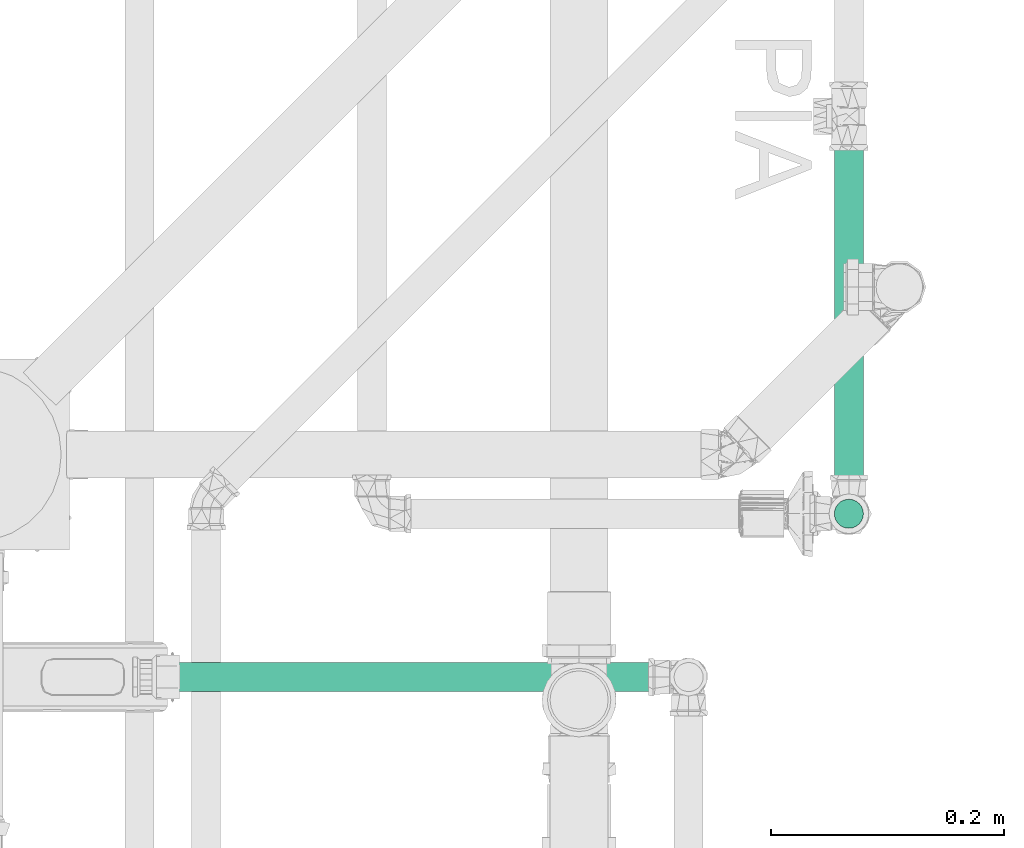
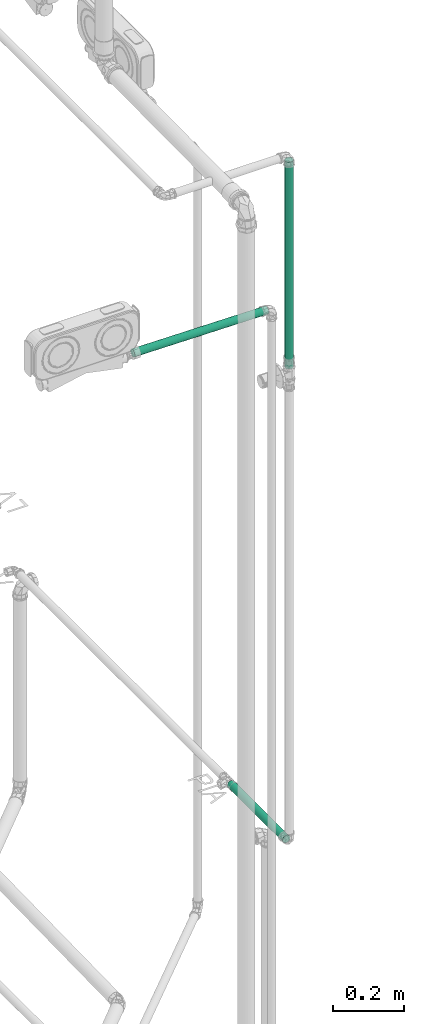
# One storey, part 46 of 589: 3 flow segments.
"""IFC2X3 building model written with IfcOpenShell, lengths in millimetres."""

import ifcopenshell
import ifcopenshell.guid

model = None  # the IFC model being written
_history = None  # IfcOwnerHistory: only IFC2X3 demands one
_inside = {}  # id of a spatial element -> (the spatial element, [elements in it])
_under = {}  # id of a project, library or spatial element -> (it, [spatial elements below it])
_declared = {}  # id of a project -> (the project, [libraries it declares])
_typed = {}  # id of a type object -> (the type object, [elements of that type])
_made_of = {}  # id of a material, layer set ... -> (it, [elements and type objects made of it])


def new_model(schema):
    """Start an empty IFC model of exactly this schema.

    Asked for "IFC4X3", IfcOpenShell would pick the latest addendum, in which some entities
    have other attributes; the version numbers below select the first issue.
    IFC2X3 requires an IfcOwnerHistory on every rooted entity: one is made here for all.
    """
    global model, _history
    if schema == "IFC4X3":
        model = ifcopenshell.file(schema_version=(4, 3, 0, 0))
    else:
        model = ifcopenshell.file(schema=schema)
    _inside.clear()
    _under.clear()
    _declared.clear()
    _typed.clear()
    _made_of.clear()
    _history = None
    if model.schema == "IFC2X3":
        org = make("IfcOrganization", Name="unknown")
        user = make(
            "IfcPersonAndOrganization",
            ThePerson=make("IfcPerson", FamilyName="unknown"),
            TheOrganization=org,
        )
        app = make(
            "IfcApplication",
            ApplicationDeveloper=org,
            Version="unknown",
            ApplicationFullName="unknown",
            ApplicationIdentifier="unknown",
        )
        _history = make(
            "IfcOwnerHistory",
            OwningUser=user,
            OwningApplication=app,
            ChangeAction="ADDED",
            CreationDate=0,
        )
    return model


def make(cls, **values):
    """One entity of the class cls with the attributes given. An attribute that is None is left unset."""
    return model.create_entity(
        cls, **{name: value for name, value in values.items() if value is not None}
    )


def entity(cls, *values):
    """Any entity or typed value of the class cls, its attributes in the order of the schema. None: left unset."""
    e = model.create_entity(cls)
    for i, value in enumerate(values):
        if value is not None:
            e[i] = value
    return e


def rooted(cls, **values):
    """An entity with a GlobalId (a new one), such as an element, a storey or a relation."""
    return make(cls, GlobalId=ifcopenshell.guid.new(), OwnerHistory=_history, **values)


def si_unit(unit_type, name, prefix=None):
    """IfcSIUnit, for example si_unit("LENGTHUNIT", "METRE", prefix="MILLI")."""
    return make("IfcSIUnit", UnitType=unit_type, Prefix=prefix, Name=name)


def converted_unit(unit_type, name, factor, base, dimensions=None, offset=None):
    """IfcConversionBasedUnit, such as the inch: factor (a typed value) times the base unit."""
    return make(
        "IfcConversionBasedUnit"
        if offset is None
        else "IfcConversionBasedUnitWithOffset",
        ConversionOffset=offset,
        Dimensions=None
        if dimensions is None
        else entity("IfcDimensionalExponents", *dimensions),
        UnitType=unit_type,
        Name=name,
        ConversionFactor=make(
            "IfcMeasureWithUnit", ValueComponent=factor, UnitComponent=base
        ),
    )


def derived_unit(unit_type, elements):
    """IfcDerivedUnit: a product of units, each with its exponent."""
    return make(
        "IfcDerivedUnit",
        Elements=[
            make("IfcDerivedUnitElement", Unit=unit, Exponent=power)
            for unit, power in elements
        ],
        UnitType=unit_type,
    )


def assignment(units):
    """IfcUnitAssignment: the units of a project."""
    return None if units is None else make("IfcUnitAssignment", Units=units)


def point(xyz):
    """IfcCartesianPoint."""
    return None if xyz is None else make("IfcCartesianPoint", Coordinates=xyz)


def direction(xyz):
    """IfcDirection."""
    return None if xyz is None else make("IfcDirection", DirectionRatios=xyz)


def frame(location, z_axis=None, x_axis=None):
    """IfcAxis2Placement3D, a coordinate frame: its origin and axes. An axis left out is left unset."""
    return make(
        "IfcAxis2Placement3D",
        Location=point(location),
        Axis=direction(z_axis),
        RefDirection=direction(x_axis),
    )


def frame_2d(location, x_axis=None):
    """IfcAxis2Placement2D, a coordinate frame in the plane: its origin and x axis."""
    return make(
        "IfcAxis2Placement2D", Location=point(location), RefDirection=direction(x_axis)
    )


def origin():
    """The frame at (0, 0, 0) with its axes left unset."""
    return frame((0.0, 0.0, 0.0))


def origin_2d_with_axis():
    """The frame at (0, 0) in the plane with the x axis (1, 0) written out."""
    return frame_2d((0.0, 0.0), x_axis=(1.0, 0.0))


def place(relative_to, where):
    """IfcLocalPlacement: puts the frame where relative to a parent placement (None: the world)."""
    return make(
        "IfcLocalPlacement", PlacementRelTo=relative_to, RelativePlacement=where
    )


def context(
    kind, dimensions, precision=None, world=None, true_north=None, identifier=None
):
    """IfcGeometricRepresentationContext, for example the 3D "Model" context."""
    return make(
        "IfcGeometricRepresentationContext",
        ContextIdentifier=identifier,
        ContextType=kind,
        CoordinateSpaceDimension=dimensions,
        Precision=precision,
        WorldCoordinateSystem=world,
        TrueNorth=true_north,
    )


def subcontext(parent, identifier, kind, view, scale=None):
    """IfcGeometricRepresentationSubContext, for example "Body" below "Model"."""
    return make(
        "IfcGeometricRepresentationSubContext",
        ContextIdentifier=identifier,
        ContextType=kind,
        ParentContext=parent,
        TargetScale=scale,
        TargetView=view,
    )


def project(units=None, contexts=None):
    """IfcProject with its units and contexts."""
    return rooted(
        "IfcProject",
        Name="project",
        RepresentationContexts=contexts,
        UnitsInContext=assignment(units),
    )


def spatial(cls, under=None, at=None, **own):
    """A site, building, storey or space (cls), placed at a placement, below another one or the project."""
    s = rooted(cls, ObjectPlacement=at, **own)
    if under is not None:
        _under.setdefault(under.id(), (under, []))[1].append(s)
    return s


def profile(cls, at=None, kind="AREA", **sizes):
    """A parametric profile (cls). Its sizes go by their IFC names, for example OverallWidth=200.0."""
    return make(cls, ProfileType=kind, Position=at, **sizes)


def circle(**sizes):
    """IfcCircleProfileDef."""
    return profile("IfcCircleProfileDef", **sizes)


def extrude(swept, where, along, depth):
    """IfcExtrudedAreaSolid: the profile swept, set in the frame where, extruded along a direction by depth."""
    return make(
        "IfcExtrudedAreaSolid",
        SweptArea=swept,
        Position=where,
        ExtrudedDirection=direction(along),
        Depth=depth,
    )


def shape(context_of_items, identifier, shape_type, items):
    """IfcShapeRepresentation: the items that make up one representation, for example the "Body"."""
    return make(
        "IfcShapeRepresentation",
        ContextOfItems=context_of_items,
        RepresentationIdentifier=identifier,
        RepresentationType=shape_type,
        Items=items,
    )


def made_of(thing, what):
    """Note that an element or type object is made of a material, layer set ...; save() writes the relation."""
    if what is not None:
        _made_of.setdefault(what.id(), (what, []))[1].append(thing)
    return thing


def type_object(cls, material=None, **own):
    """A type object (cls), such as IfcWallType, which elements share."""
    return made_of(rooted(cls, **own), material)


def element(
    cls,
    number,
    at=None,
    inside=None,
    cuts=None,
    type_object=None,
    material=None,
    context=None,
    identifier="Body",
    shape_type=None,
    held_by="IfcProductDefinitionShape",
    body=None,
    shapes=None,
    **own,
):
    """One element of the class cls, such as IfcWall. Its Tag is "e" and its number.

    at: its placement. inside: the storey or other place that contains it. cuts: it is an
    opening in that element (IfcRelVoidsElement). A single representation is given by context,
    identifier, shape_type and body (its items); several are given by shapes. held_by: the class
    of the entity that holds the representations. save() writes the other relations.
    """
    e = rooted(cls, Tag="e%d" % number, ObjectPlacement=at, **own)
    if body is not None:
        shapes = [shape(context, identifier, shape_type, body)]
    if shapes is not None:
        e.Representation = make(held_by, Representations=shapes)
    if inside is not None:
        _inside.setdefault(inside.id(), (inside, []))[1].append(e)
    if cuts is not None:
        rooted(
            "IfcRelVoidsElement", RelatingBuildingElement=cuts, RelatedOpeningElement=e
        )
    if type_object is not None:
        _typed.setdefault(type_object.id(), (type_object, []))[1].append(e)
    return made_of(e, material)


def aggregate(whole, parts):
    """IfcRelAggregates: a whole, such as a stair, and the parts it consists of."""
    return rooted("IfcRelAggregates", RelatingObject=whole, RelatedObjects=parts)


def save(model, path):
    """Write the relations noted so far, then the file.

    IfcRelAggregates (storeys below a building ...), IfcRelContainedInSpatialStructure (elements
    in a storey), IfcRelDefinesByType, IfcRelAssociatesMaterial and IfcRelDeclares: one each for
    every whole, place, type object, material and project.
    """
    for whole, parts in _under.values():
        aggregate(whole, parts)
    for where, things in _inside.values():
        rooted(
            "IfcRelContainedInSpatialStructure",
            RelatedElements=things,
            RelatingStructure=where,
        )
    for kind, things in _typed.values():
        rooted("IfcRelDefinesByType", RelatedObjects=things, RelatingType=kind)
    for what, things in _made_of.values():
        rooted("IfcRelAssociatesMaterial", RelatedObjects=things, RelatingMaterial=what)
    for by, libraries in _declared.values():
        rooted("IfcRelDeclares", RelatingContext=by, RelatedDefinitions=libraries)
    model.write(path)


model = new_model("IFC2X3")

# Units and contexts
model_context = context("Model", 3, precision=0.01, world=origin(), true_north=direction((6.123031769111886e-17, 1.0)))
body_context = subcontext(model_context, "Body", "Model", "MODEL_VIEW")
ifc_project = project(units=[si_unit("LENGTHUNIT", "METRE", prefix="MILLI"), si_unit("AREAUNIT", "SQUARE_METRE"), si_unit("VOLUMEUNIT", "CUBIC_METRE"), converted_unit("PLANEANGLEUNIT", "DEGREE", entity("IfcRatioMeasure", 0.017453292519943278), si_unit("PLANEANGLEUNIT", "RADIAN"), dimensions=[0, 0, 0, 0, 0, 0, 0]), si_unit("MASSUNIT", "GRAM", prefix="KILO"), derived_unit("MASSDENSITYUNIT", [(si_unit("MASSUNIT", "GRAM", prefix="KILO"), 1), (si_unit("LENGTHUNIT", "METRE"), -3)]), derived_unit("IONCONCENTRATIONUNIT", [(si_unit("MASSUNIT", "GRAM", prefix="KILO"), 1), (si_unit("LENGTHUNIT", "METRE"), -3)]), derived_unit("MOMENTOFINERTIAUNIT", [(si_unit("LENGTHUNIT", "METRE"), 4)]), si_unit("TIMEUNIT", "SECOND"), si_unit("FREQUENCYUNIT", "HERTZ"), si_unit("THERMODYNAMICTEMPERATUREUNIT", "DEGREE_CELSIUS"), derived_unit("THERMALTRANSMITTANCEUNIT", [(si_unit("MASSUNIT", "GRAM", prefix="KILO"), 1), (si_unit("THERMODYNAMICTEMPERATUREUNIT", "KELVIN"), -1), (si_unit("TIMEUNIT", "SECOND"), -3)]), derived_unit("THERMALCONDUCTANCEUNIT", [(si_unit("MASSUNIT", "GRAM", prefix="KILO"), 1), (si_unit("THERMODYNAMICTEMPERATUREUNIT", "KELVIN"), -1), (si_unit("TIMEUNIT", "SECOND"), -3), (si_unit("LENGTHUNIT", "METRE"), 1)]), derived_unit("VOLUMETRICFLOWRATEUNIT", [(si_unit("LENGTHUNIT", "METRE"), 3), (si_unit("TIMEUNIT", "SECOND"), -1)]), derived_unit("MASSFLOWRATEUNIT", [(si_unit("MASSUNIT", "GRAM", prefix="KILO"), 1), (si_unit("TIMEUNIT", "SECOND"), -1)]), derived_unit("ROTATIONALFREQUENCYUNIT", [(si_unit("TIMEUNIT", "SECOND"), -1)]), si_unit("ELECTRICCURRENTUNIT", "AMPERE"), si_unit("ELECTRICVOLTAGEUNIT", "VOLT"), si_unit("POWERUNIT", "WATT"), si_unit("FORCEUNIT", "NEWTON", prefix="KILO"), si_unit("ILLUMINANCEUNIT", "LUX"), si_unit("LUMINOUSFLUXUNIT", "LUMEN"), si_unit("LUMINOUSINTENSITYUNIT", "CANDELA"), derived_unit("USERDEFINED", [(si_unit("MASSUNIT", "GRAM", prefix="KILO"), -1), (si_unit("LENGTHUNIT", "METRE"), -2), (si_unit("TIMEUNIT", "SECOND"), 3), (si_unit("LUMINOUSFLUXUNIT", "LUMEN"), 1)]), derived_unit("USERDEFINED", [(si_unit("MASSUNIT", "GRAM", prefix="KILO"), 1), (si_unit("TIMEUNIT", "SECOND"), -3), (si_unit("LENGTHUNIT", "METRE"), 3), (si_unit("ELECTRICCURRENTUNIT", "AMPERE"), -2)]), derived_unit("SOUNDPOWERUNIT", [(si_unit("MASSUNIT", "GRAM", prefix="KILO"), 1), (si_unit("TIMEUNIT", "SECOND"), -3), (si_unit("LENGTHUNIT", "METRE"), 2)]), derived_unit("SOUNDPRESSUREUNIT", [(si_unit("MASSUNIT", "GRAM", prefix="KILO"), 1), (si_unit("LENGTHUNIT", "METRE"), -1), (si_unit("TIMEUNIT", "SECOND"), -2)]), derived_unit("LINEARVELOCITYUNIT", [(si_unit("LENGTHUNIT", "METRE"), 1), (si_unit("TIMEUNIT", "SECOND"), -1)]), si_unit("PRESSUREUNIT", "PASCAL"), derived_unit("USERDEFINED", [(si_unit("MASSUNIT", "GRAM", prefix="KILO"), 1), (si_unit("LENGTHUNIT", "METRE"), -2), (si_unit("TIMEUNIT", "SECOND"), -2)]), derived_unit("LINEARFORCEUNIT", [(si_unit("MASSUNIT", "GRAM", prefix="KILO"), 1), (si_unit("TIMEUNIT", "SECOND"), -2)]), derived_unit("PLANARFORCEUNIT", [(si_unit("MASSUNIT", "GRAM", prefix="KILO"), 1), (si_unit("LENGTHUNIT", "METRE"), -1), (si_unit("TIMEUNIT", "SECOND"), -2)]), derived_unit("SPECIFICHEATCAPACITYUNIT", [(si_unit("THERMODYNAMICTEMPERATUREUNIT", "KELVIN"), -1), (si_unit("LENGTHUNIT", "METRE"), 2), (si_unit("TIMEUNIT", "SECOND"), -2)]), derived_unit("HEATINGVALUEUNIT", [(si_unit("LENGTHUNIT", "METRE"), 2), (si_unit("TIMEUNIT", "SECOND"), -2)]), derived_unit("VAPORPERMEABILITYUNIT", [(si_unit("LENGTHUNIT", "METRE"), -1), (si_unit("TIMEUNIT", "SECOND"), 1)]), derived_unit("DYNAMICVISCOSITYUNIT", [(si_unit("MASSUNIT", "GRAM", prefix="KILO"), 1), (si_unit("TIMEUNIT", "SECOND"), -1), (si_unit("LENGTHUNIT", "METRE"), -1)]), derived_unit("THERMALEXPANSIONCOEFFICIENTUNIT", [(si_unit("THERMODYNAMICTEMPERATUREUNIT", "KELVIN"), -1)]), derived_unit("MODULUSOFELASTICITYUNIT", [(si_unit("MASSUNIT", "GRAM", prefix="KILO"), 1), (si_unit("LENGTHUNIT", "METRE"), -1), (si_unit("TIMEUNIT", "SECOND"), -2)]), derived_unit("ISOTHERMALMOISTURECAPACITYUNIT", [(si_unit("LENGTHUNIT", "METRE"), 3), (si_unit("MASSUNIT", "GRAM", prefix="KILO"), -1)]), derived_unit("MOISTUREDIFFUSIVITYUNIT", [(si_unit("TIMEUNIT", "SECOND"), -1), (si_unit("LENGTHUNIT", "METRE"), 2)])], contexts=[model_context])

# Site, building, storey
site_placement = place(None, origin())
site = spatial("IfcSite", under=ifc_project, at=site_placement, Name="Default", CompositionType="ELEMENT")
building_placement = place(site_placement, origin())
building = spatial("IfcBuilding", under=site, at=building_placement, CompositionType="ELEMENT")
storey_placement = place(building_placement, frame((0.0, 0.0, 100.0)))
storey = spatial("IfcBuildingStorey", under=building, at=storey_placement, Name="TÉRREO", CompositionType="ELEMENT", Elevation=100.0)

# Flow segments
pipe_segment_type = type_object("IfcPipeSegmentType", Name="Tipos de tubos:PVC Marrom Soldável", PredefinedType="NOTDEFINED")
flow_segment_1_placement = place(storey_placement, origin())
element("IfcFlowSegment", 1, at=flow_segment_1_placement, inside=storey, type_object=pipe_segment_type, Name="Tipos de tubos:PVC Marrom Soldável", ObjectType="Tipos de tubos:PVC Marrom Soldável", context=body_context, shape_type="SweptSolid", body=[
    extrude(circle(Radius=12.5, at=frame_2d((6.767919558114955e-14, -1.353583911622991e-13), x_axis=(1.0, 0.0))), frame((341.4423921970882, -7732.131283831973, 600.0), z_axis=(0.0, 1.0, 0.0), x_axis=(1.0, 0.0, 0.0)), (0.0, 0.0, 1.0), 312.66802574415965),
])
flow_segment_2_placement = place(storey_placement, origin())
element("IfcFlowSegment", 2, at=flow_segment_2_placement, inside=storey, type_object=pipe_segment_type, Name="Tipos de tubos:PVC Marrom Soldável", ObjectType="Tipos de tubos:PVC Marrom Soldável", context=body_context, shape_type="SweptSolid", body=[
    extrude(circle(Radius=12.5, at=frame_2d((6.767919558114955e-14, 0.0), x_axis=(1.0, 0.0))), frame((341.44239219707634, -7747.531283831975, 2240.0012082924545), z_axis=(0.0, 0.0, 1.0), x_axis=(-1.0, 0.0, 0.0)), (0.0, 0.0, 1.0), 714.5987917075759),
])
flow_segment_3_placement = place(storey_placement, origin())
element("IfcFlowSegment", 3, at=flow_segment_3_placement, inside=storey, type_object=pipe_segment_type, Name="Tipos de tubos:PVC Marrom Soldável", ObjectType="Tipos de tubos:PVC Marrom Soldável", context=body_context, shape_type="SweptSolid", body=[
    extrude(circle(Radius=12.5, at=origin_2d_with_axis()), frame((187.25906881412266, -7887.8612457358, 2574.828384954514), z_axis=(-0.9999500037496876, 0.0, 0.009999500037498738), x_axis=(0.0, -1.0, 0.0)), (0.0, 0.0, 1.0), 437.1413641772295),
])

save(model, "model.ifc")
